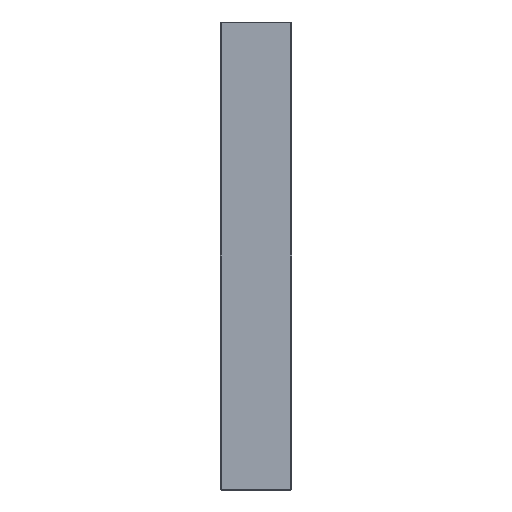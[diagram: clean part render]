
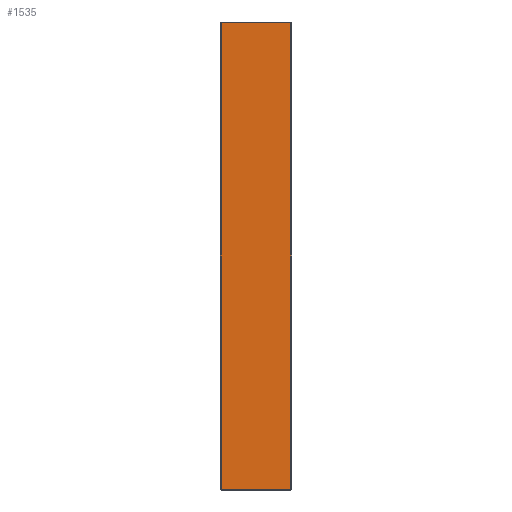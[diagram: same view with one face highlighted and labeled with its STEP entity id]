
A CAD part, left-side view. The second image highlights one B-rep face of the part: STEP entity #1535.
In plain terms, the highlighted planar face has unit normal (-1, 0, 0).
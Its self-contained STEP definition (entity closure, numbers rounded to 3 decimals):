
#123 = EDGE_CURVE ( 'NONE', #606, #1329, #407, .T. ) ;
#146 = VERTEX_POINT ( 'NONE', #1309 ) ;
#297 = DIRECTION ( 'NONE',  ( 0., 0., 1. ) ) ;
#370 = PLANE ( 'NONE',  #908 ) ;
#407 = LINE ( 'NONE', #760, #1365 ) ;
#433 = DIRECTION ( 'NONE',  ( 0., -1., 0. ) ) ;
#606 = VERTEX_POINT ( 'NONE', #2152 ) ;
#686 = LINE ( 'NONE', #1982, #2210 ) ;
#760 = CARTESIAN_POINT ( 'NONE',  ( -198., 1., 248. ) ) ;
#908 = AXIS2_PLACEMENT_3D ( 'NONE', #2234, #1173, #1415 ) ;
#925 = ORIENTED_EDGE ( 'NONE', *, *, #1049, .T. ) ;
#1049 = EDGE_CURVE ( 'NONE', #1050, #146, #686, .T. ) ;
#1050 = VERTEX_POINT ( 'NONE', #1790 ) ;
#1118 = CARTESIAN_POINT ( 'NONE',  ( -198., 76., 247. ) ) ;
#1173 = DIRECTION ( 'NONE',  ( 1., 0., 0. ) ) ;
#1309 = CARTESIAN_POINT ( 'NONE',  ( -198., 75., -247. ) ) ;
#1318 = VECTOR ( 'NONE', #433, 1000. ) ;
#1329 = VERTEX_POINT ( 'NONE', #2286 ) ;
#1365 = VECTOR ( 'NONE', #297, 1000. ) ;
#1415 = DIRECTION ( 'NONE',  ( 0., 0., -1. ) ) ;
#1426 = VECTOR ( 'NONE', #2562, 1000. ) ;
#1506 = LINE ( 'NONE', #1118, #1426 ) ;
#1535 = ADVANCED_FACE ( 'NONE', ( #1632 ), #370, .F. ) ;
#1550 = EDGE_LOOP ( 'NONE', ( #2461, #925, #2229, #2223 ) ) ;
#1632 = FACE_OUTER_BOUND ( 'NONE', #1550, .T. ) ;
#1790 = CARTESIAN_POINT ( 'NONE',  ( -198., 75., 247. ) ) ;
#1815 = EDGE_CURVE ( 'NONE', #146, #606, #1916, .T. ) ;
#1916 = LINE ( 'NONE', #2471, #1318 ) ;
#1982 = CARTESIAN_POINT ( 'NONE',  ( -198., 75., 248. ) ) ;
#2086 = DIRECTION ( 'NONE',  ( 0., 0., -1. ) ) ;
#2152 = CARTESIAN_POINT ( 'NONE',  ( -198., 1., -247. ) ) ;
#2210 = VECTOR ( 'NONE', #2086, 1000. ) ;
#2223 = ORIENTED_EDGE ( 'NONE', *, *, #123, .T. ) ;
#2229 = ORIENTED_EDGE ( 'NONE', *, *, #1815, .T. ) ;
#2234 = CARTESIAN_POINT ( 'NONE',  ( -198., 76., 248. ) ) ;
#2286 = CARTESIAN_POINT ( 'NONE',  ( -198., 1., 247. ) ) ;
#2461 = ORIENTED_EDGE ( 'NONE', *, *, #2569, .T. ) ;
#2471 = CARTESIAN_POINT ( 'NONE',  ( -198., 76., -247. ) ) ;
#2562 = DIRECTION ( 'NONE',  ( 0., 1., 0. ) ) ;
#2569 = EDGE_CURVE ( 'NONE', #1329, #1050, #1506, .T. ) ;
